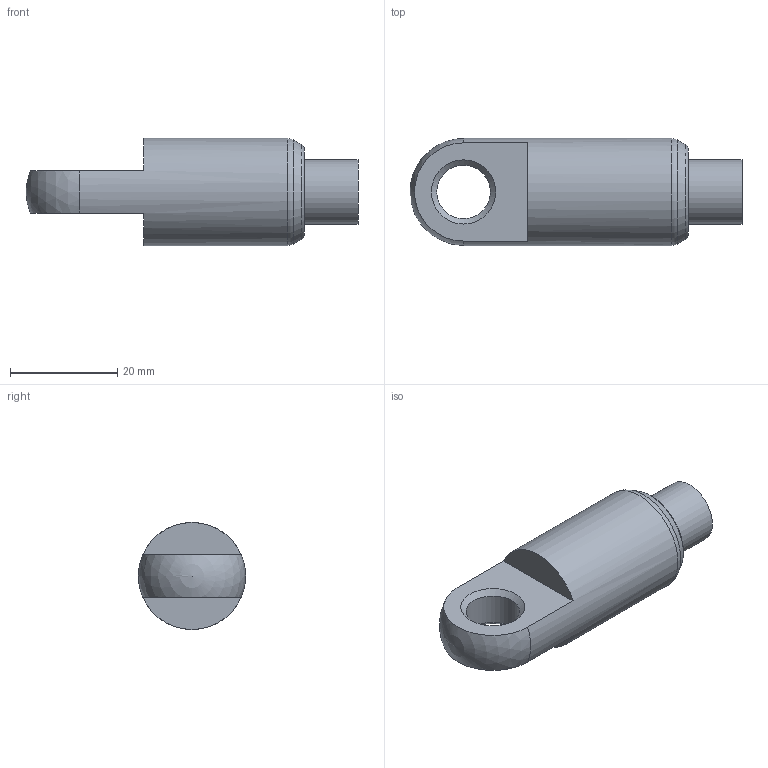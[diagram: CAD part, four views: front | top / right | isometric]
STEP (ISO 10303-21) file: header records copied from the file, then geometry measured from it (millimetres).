
FILE_DESCRIPTION(/* description */ (''),/* implementation_level */ '2;1');
FILE_NAME(/* name */ '',/* time_stamp */ '2024-08-09T13:00:48+09:00',/* author */ ('jhkim'),/* organization */ (''),/* preprocessor_version */ 'ST-DEVELOPER v20',/* originating_system */ 'Autodesk Inventor 2025',/* authorisation */ '');
FILE_SCHEMA (('AUTOMOTIVE_DESIGN { 1 0 10303 214 3 1 1 }'));
Length unit declared in the file: millimetre
Products named in the file (1): 펀치
Bounding box: 62 x 20 x 20 mm (x, y, z)
Volume: 12771.5 mm3; surface area: 3867.1 mm2
Topology: 1 solids, 1 shells, 15 faces, 38 edges, 25 vertices
Faces by surface type: plane 5, cone 3, cylinder 3, sphere 2, torus 2
Full cylindrical faces by diameter (mm): 10 x1, 12 x1, 20 x1
Entity records: 511 total; most frequent: DIRECTION 94, CARTESIAN_POINT 78, ORIENTED_EDGE 74, AXIS2_PLACEMENT_3D 41, EDGE_CURVE 37, CIRCLE 25, VERTEX_POINT 25, EDGE_LOOP 18
